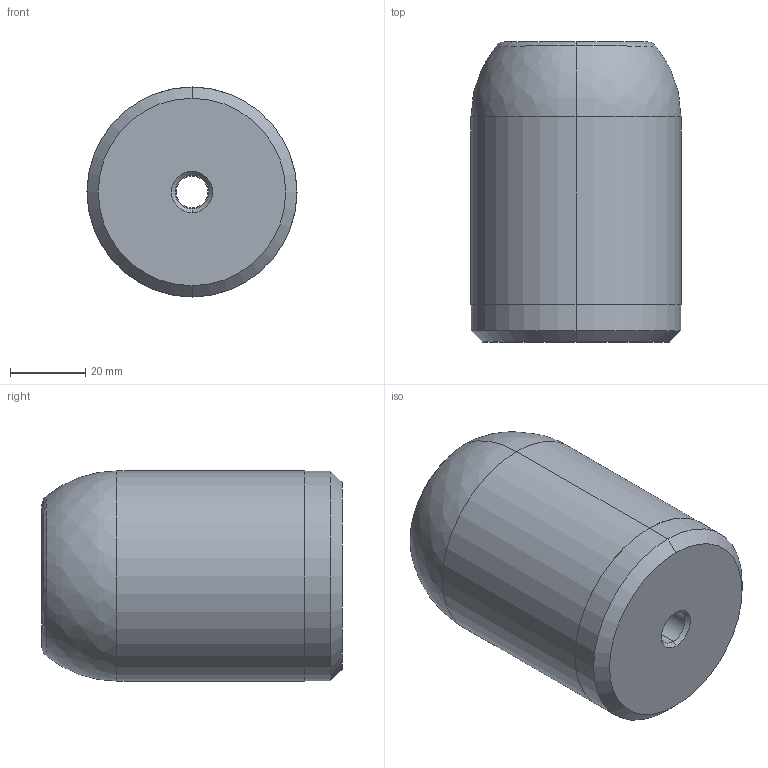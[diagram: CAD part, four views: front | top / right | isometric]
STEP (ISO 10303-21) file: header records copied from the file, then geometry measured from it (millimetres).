
FILE_DESCRIPTION(('CATIA V5 STEP Exchange'),'2;1');
FILE_NAME('C:\Users\Utente\Desktop\IO LAVORO\3D X SITO CF\X SITO\700\700-56-80.stp','2020-11-29T12:10:17+00:00',('none'),('none'),'CATIA Version 5 Release 20 GA (IN-10)','CATIA V5 STEP AP203','none');
FILE_SCHEMA(('CONFIG_CONTROL_DESIGN'));
Length unit declared in the file: millimetre
Products named in the file (1): 700-56-80
Bounding box: 56 x 80 x 56 mm (x, y, z)
Volume: 183443.8 mm3; surface area: 19558.2 mm2
Topology: 1 solids, 1 shells, 22 faces, 44 edges, 26 vertices
Faces by surface type: cylinder 8, cone 6, plane 4, torus 2, revolution 2
Entity records: 661 total; most frequent: CARTESIAN_POINT 166, ORIENTED_EDGE 88, DIRECTION 83, AXIS2_PLACEMENT_3D 48, EDGE_CURVE 44, CIRCLE 27, EDGE_LOOP 26, VERTEX_POINT 26
